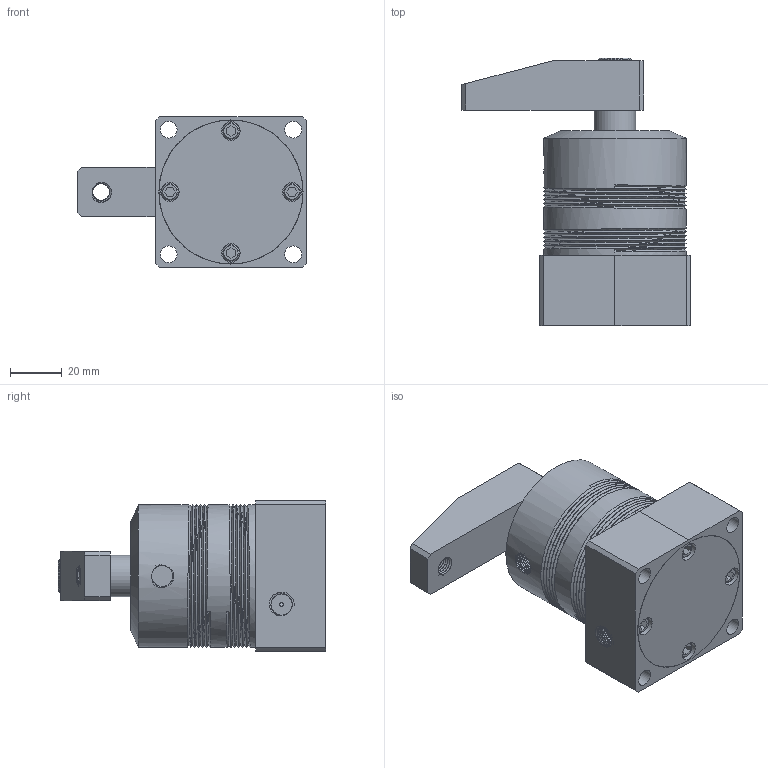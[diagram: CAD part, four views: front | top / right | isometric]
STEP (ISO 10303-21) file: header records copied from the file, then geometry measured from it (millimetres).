
FILE_DESCRIPTION(/* description */ (''),/* implementation_level */ '2;1');
FILE_NAME(/* name */ 'D:\Vault_2016\Projekty\STRONA\Pneumatic\Line ; Pipe connecct - type\cas-40s_asm\CAS-40SL_ZAMKNIETY.stp',/* time_stamp */ '2019-01-17T11:36:23+01:00',/* author */ ('user'),/* organization */ (''),/* preprocessor_version */ 'ST-DEVELOPER v17.2',/* originating_system */ 'Autodesk Inventor 2019',/* authorisation */ '');
FILE_SCHEMA (('AUTOMOTIVE_DESIGN { 1 0 10303 214 3 1 1 }'));
Products named in the file (7): CAS-40SL_ZAMKNIETY; CAS-40BT; CAS-40HSG; CAS-40HG; M4; CAS-32SYB; M8LC
Assembly tree (9 placements, depth 2):
  CAS-40SL_ZAMKNIETY
    CAS-40BT
    CAS-40HSG
    CAS-40HG
    M4  x4
    CAS-32SYB
    M8LC
Bounding box: 88 x 103 x 58 mm (x, y, z)
Volume: 182415.4 mm3; surface area: 61764.4 mm2
Topology: 11 solids, 11 shells, 450 faces, 1239 edges, 838 vertices
Faces by surface type: cylinder 205, plane 110, bspline 105, cone 25, torus 5
Full cylindrical faces by diameter (mm): 1 x1, 1.5 x1, 3.2 x4, 4 x76, 4.5 x4, 6.5 x10, 7.2 x4, 8 x33, 8.2 x16, 9 x1, 12 x3, 12.98 x1, 14 x1, 16 x3, 34.88 x1, 40 x4, 55 x9, 55.5 x2
Entity records: 37492 total; most frequent: CARTESIAN_POINT 30221, ORIENTED_EDGE 1638, DIRECTION 1151, EDGE_CURVE 819, VERTEX_POINT 556, AXIS2_PLACEMENT_3D 435, B_SPLINE_CURVE_WITH_KNOTS 354, EDGE_LOOP 350
